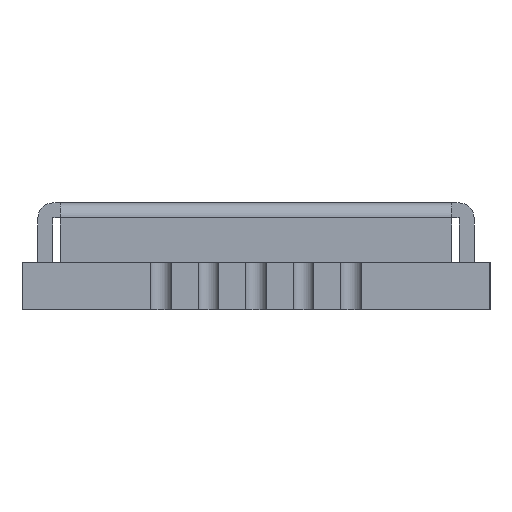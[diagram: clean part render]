
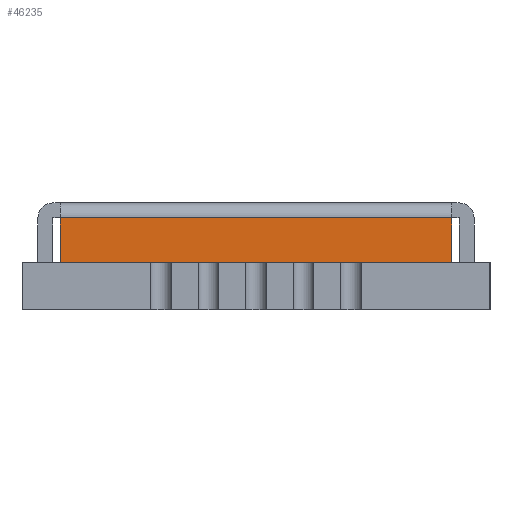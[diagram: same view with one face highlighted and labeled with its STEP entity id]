
A CAD part, left-side view. The second image highlights one B-rep face of the part: STEP entity #46235.
In plain terms, the highlighted planar face has unit normal (-1, 0, 0) as drawn and (0, 1, 0) by its records, which use the part's own axes.
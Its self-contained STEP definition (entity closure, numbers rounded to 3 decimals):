
#45683 = VERTEX_POINT('',#45684);
#45684 = CARTESIAN_POINT('',(5.214,7.39,0.));
#45690 = EDGE_CURVE('',#45683,#45691,#45693,.T.);
#45691 = VERTEX_POINT('',#45692);
#45692 = CARTESIAN_POINT('',(5.214,7.39,1.2));
#45693 = LINE('',#45694,#45695);
#45694 = CARTESIAN_POINT('',(5.214,7.39,0.));
#45695 = VECTOR('',#45696,1.);
#45696 = DIRECTION('',(0.,0.,1.));
#45878 = VERTEX_POINT('',#45879);
#45879 = CARTESIAN_POINT('',(-5.236,7.39,1.2));
#45886 = EDGE_CURVE('',#45887,#45878,#45889,.T.);
#45887 = VERTEX_POINT('',#45888);
#45888 = CARTESIAN_POINT('',(-5.236,7.39,0.));
#45889 = LINE('',#45890,#45891);
#45890 = CARTESIAN_POINT('',(-5.236,7.39,0.));
#45891 = VECTOR('',#45892,1.);
#45892 = DIRECTION('',(0.,0.,1.));
#46082 = EDGE_CURVE('',#45683,#45887,#46083,.T.);
#46083 = LINE('',#46084,#46085);
#46084 = CARTESIAN_POINT('',(5.214,7.39,0.));
#46085 = VECTOR('',#46086,1.);
#46086 = DIRECTION('',(-1.,0.,0.));
#46160 = EDGE_CURVE('',#45691,#45878,#46161,.T.);
#46161 = LINE('',#46162,#46163);
#46162 = CARTESIAN_POINT('',(2.601,7.39,1.2));
#46163 = VECTOR('',#46164,1.);
#46164 = DIRECTION('',(-1.,0.,0.));
#46235 = ADVANCED_FACE('',(#46236),#46242,.T.);
#46236 = FACE_BOUND('',#46237,.T.);
#46237 = EDGE_LOOP('',(#46238,#46239,#46240,#46241));
#46238 = ORIENTED_EDGE('',*,*,#46160,.F.);
#46239 = ORIENTED_EDGE('',*,*,#45690,.F.);
#46240 = ORIENTED_EDGE('',*,*,#46082,.T.);
#46241 = ORIENTED_EDGE('',*,*,#45886,.T.);
#46242 = PLANE('',#46243);
#46243 = AXIS2_PLACEMENT_3D('',#46244,#46245,#46246);
#46244 = CARTESIAN_POINT('',(5.214,7.39,0.));
#46245 = DIRECTION('',(0.,1.,0.));
#46246 = DIRECTION('',(-1.,0.,0.));
